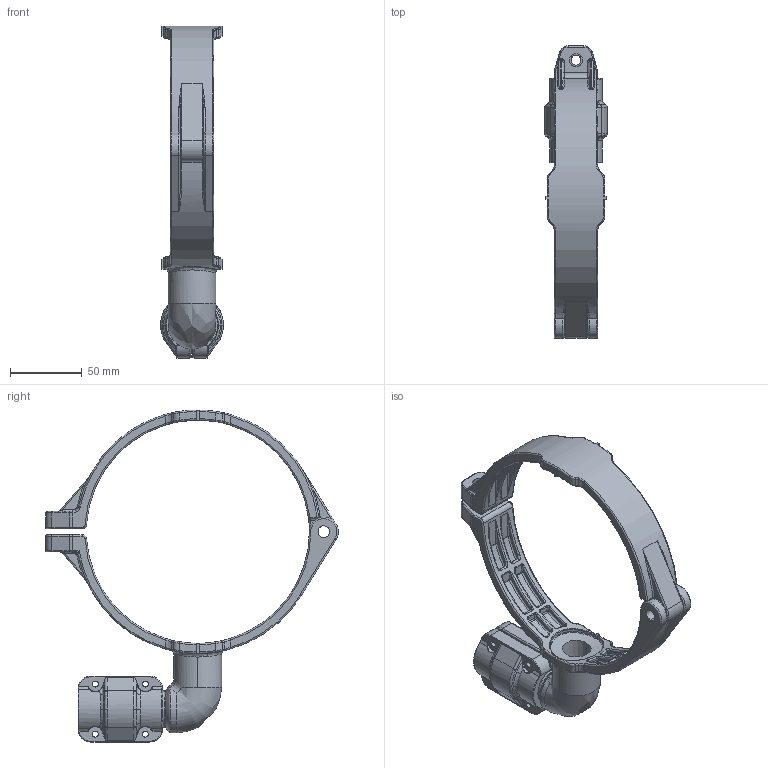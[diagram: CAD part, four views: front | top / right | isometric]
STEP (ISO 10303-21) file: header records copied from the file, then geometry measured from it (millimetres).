
FILE_DESCRIPTION((''),'2;1');
FILE_NAME('2015921099_ASM_4_ASM','2017-05-15T',('Administrator'),(''),'PRO/ENGINEER BY PARAMETRIC TECHNOLOGY CORPORATION, 2009360','PRO/ENGINEER BY PARAMETRIC TECHNOLOGY CORPORATION, 2009360','');
FILE_SCHEMA(('AUTOMOTIVE_DESIGN_CC2 { 1 2 10303 214 -1 1 5 2 }'));
Length unit declared in the file: millimetre
Products named in the file (8): MANIFOLD_SOLID_BREP_105_1_1; MANIFOLD_SOLID_BREP_106_1_1; 2017921000_ASM_6_ASM_1_ASM; 2017921000_ASM_ASM_1_ASM; PRT0001; PRT0002; ASM0001_ASM; 2015921099_ASM_4_ASM
Assembly tree (7 placements, depth 4):
  2015921099_ASM_4_ASM
    2017921000_ASM_ASM_1_ASM
      2017921000_ASM_6_ASM_1_ASM
        MANIFOLD_SOLID_BREP_105_1_1
        MANIFOLD_SOLID_BREP_106_1_1
    ASM0001_ASM
      PRT0001
      PRT0002
Bounding box: 43.8 x 204.36 x 231.88 mm (x, y, z)
Volume: 199500 mm3; surface area: 82285.4 mm2
Topology: 4 solids, 4 shells, 1331 faces, 3232 edges, 1822 vertices
Faces by surface type: cylinder 427, bspline 357, torus 237, plane 190, sphere 116, cone 4
Entity records: 71535 total; most frequent: CARTESIAN_POINT 33664, ORIENTED_EDGE 6238, DIRECTION 5625, PRESENTATION_STYLE_ASSIGNMENT 3123, STYLED_ITEM 3123, CURVE_STYLE 3119, EDGE_CURVE 3119, AXIS2_PLACEMENT_3D 2430
